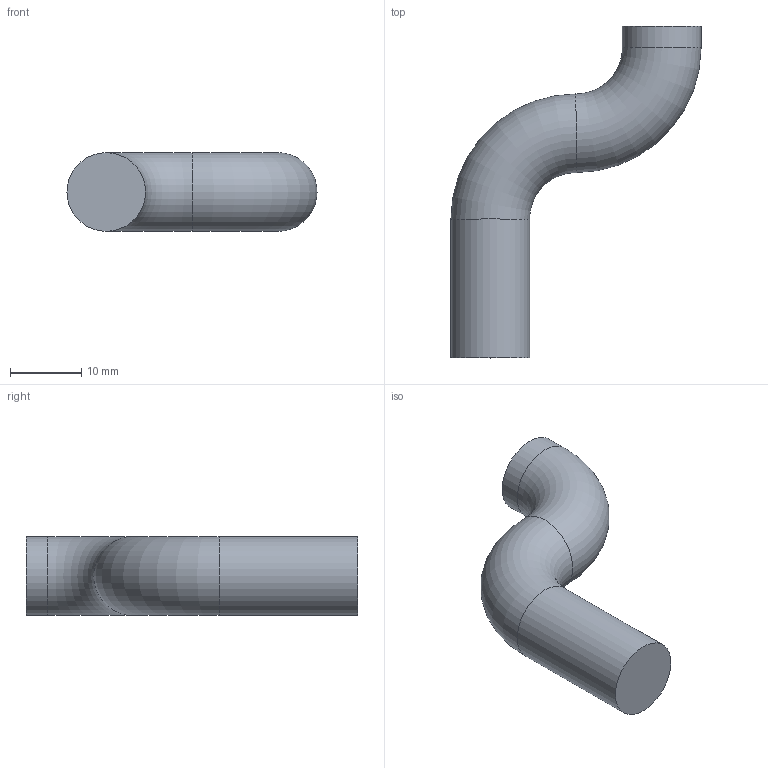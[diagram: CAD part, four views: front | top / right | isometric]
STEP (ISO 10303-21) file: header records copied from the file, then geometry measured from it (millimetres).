
FILE_DESCRIPTION(('Open CASCADE Model'),'2;1');
FILE_NAME('Open CASCADE Shape Model','2026-11-14T16:02:50',('Author'),( 'Open CASCADE'),'Open CASCADE STEP processor 7.9','Open CASCADE 7.9' ,'Unknown');
FILE_SCHEMA(('AUTOMOTIVE_DESIGN { 1 0 10303 214 1 1 1 1 }'));
Length unit declared in the file: millimetre
Products named in the file (1): Open CASCADE STEP translator 7.9 269
Bounding box: 35 x 46.43 x 11 mm (x, y, z)
Volume: 5714 mm3; surface area: 2267.9 mm2
Topology: 1 solids, 1 shells, 6 faces, 9 edges, 5 vertices
Faces by surface type: cylinder 2, torus 2, plane 2
Full cylindrical faces by diameter (mm): 11 x2
Entity records: 256 total; most frequent: CARTESIAN_POINT 46, DIRECTION 41, ORIENTED_EDGE 18, PCURVE 18, DEFINITIONAL_REPRESENTATION 18, AXIS2_PLACEMENT_3D 14, LINE 11, VECTOR 11
